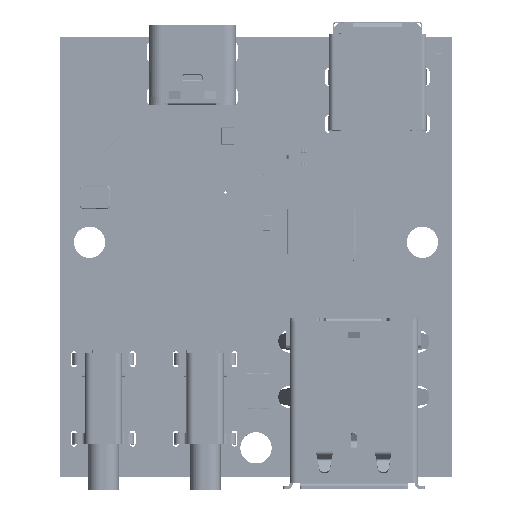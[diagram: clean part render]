
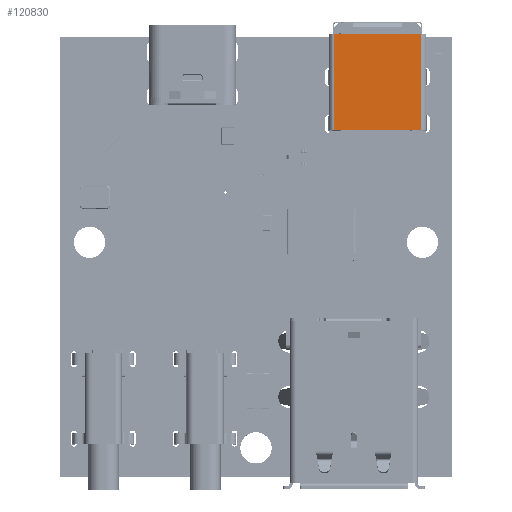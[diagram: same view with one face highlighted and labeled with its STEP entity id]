
A CAD part, top view. The second image highlights one B-rep face of the part: STEP entity #120830.
In plain terms, the highlighted planar face has unit normal (0, 0, 1).
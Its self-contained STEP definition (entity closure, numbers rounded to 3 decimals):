
#16180=FACE_OUTER_BOUND('',#22929,.T.);
#22929=EDGE_LOOP('',(#102960,#102961,#102962,#102963));
#34083=LINE('',#217502,#46891);
#34084=LINE('',#217506,#46892);
#34101=LINE('',#217553,#46909);
#34163=LINE('',#217707,#46971);
#46891=VECTOR('',#158173,1.);
#46892=VECTOR('',#158178,1.);
#46909=VECTOR('',#158211,1.);
#46971=VECTOR('',#158347,1.);
#58285=VERTEX_POINT('',#217499);
#58286=VERTEX_POINT('',#217501);
#58287=VERTEX_POINT('',#217505);
#58309=VERTEX_POINT('',#217552);
#73576=EDGE_CURVE('',#58286,#58285,#34083,.T.);
#73578=EDGE_CURVE('',#58287,#58286,#34084,.T.);
#73602=EDGE_CURVE('',#58309,#58287,#34101,.T.);
#73686=EDGE_CURVE('',#58309,#58285,#34163,.T.);
#102960=ORIENTED_EDGE('',*,*,#73576,.T.);
#102961=ORIENTED_EDGE('',*,*,#73686,.F.);
#102962=ORIENTED_EDGE('',*,*,#73602,.T.);
#102963=ORIENTED_EDGE('',*,*,#73578,.T.);
#114862=PLANE('',#132497);
#120830=ADVANCED_FACE('',(#16180),#114862,.F.);
#132497=AXIS2_PLACEMENT_3D('',#217706,#158345,#158346);
#158173=DIRECTION('',(0.,-1.,0.));
#158178=DIRECTION('',(-1.,0.,0.));
#158211=DIRECTION('',(0.,1.,0.));
#158345=DIRECTION('center_axis',(0.,0.,-1.));
#158346=DIRECTION('ref_axis',(0.,-1.,0.));
#158347=DIRECTION('',(-1.,0.,0.));
#217499=CARTESIAN_POINT('',(41.392,16.114,-142.85));
#217501=CARTESIAN_POINT('',(41.392,24.914,-142.85));
#217502=CARTESIAN_POINT('',(41.392,20.514,-142.85));
#217505=CARTESIAN_POINT('',(51.292,24.914,-142.85));
#217506=CARTESIAN_POINT('',(46.342,24.914,-142.85));
#217552=CARTESIAN_POINT('',(51.292,16.114,-142.85));
#217553=CARTESIAN_POINT('',(51.292,20.514,-142.85));
#217706=CARTESIAN_POINT('Origin',(41.194,15.938,-142.85));
#217707=CARTESIAN_POINT('',(46.342,16.114,-142.85));
